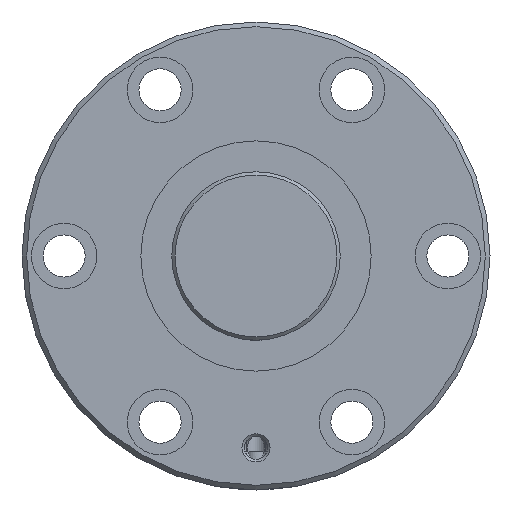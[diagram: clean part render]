
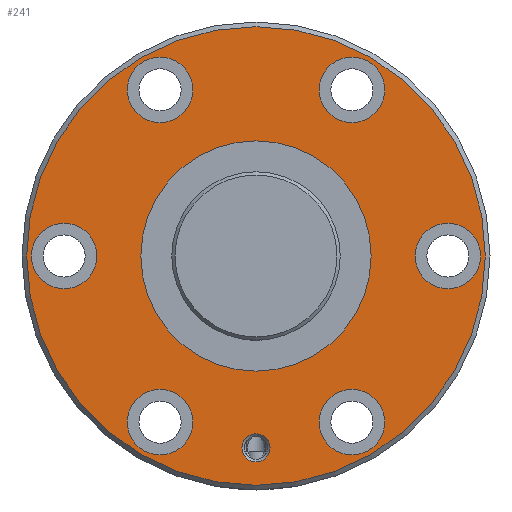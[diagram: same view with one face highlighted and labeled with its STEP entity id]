
A CAD part, left-side view. The second image highlights one B-rep face of the part: STEP entity #241.
In plain terms, the highlighted planar face has unit normal (-1, 0, 0).
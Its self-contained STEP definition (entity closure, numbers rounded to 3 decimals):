
#241 = ADVANCED_FACE( '', ( #464, #465, #466, #467, #468, #469, #470, #471, #472 ), #473, .T. );
#464 = FACE_BOUND( '', #763, .T. );
#465 = FACE_BOUND( '', #764, .T. );
#466 = FACE_BOUND( '', #765, .T. );
#467 = FACE_BOUND( '', #766, .T. );
#468 = FACE_BOUND( '', #767, .T. );
#469 = FACE_BOUND( '', #768, .T. );
#470 = FACE_BOUND( '', #769, .T. );
#471 = FACE_BOUND( '', #770, .T. );
#472 = FACE_OUTER_BOUND( '', #771, .T. );
#473 = PLANE( '', #772 );
#763 = EDGE_LOOP( '', ( #1364 ) );
#764 = EDGE_LOOP( '', ( #1365 ) );
#765 = EDGE_LOOP( '', ( #1366 ) );
#766 = EDGE_LOOP( '', ( #1367 ) );
#767 = EDGE_LOOP( '', ( #1368 ) );
#768 = EDGE_LOOP( '', ( #1369 ) );
#769 = EDGE_LOOP( '', ( #1370 ) );
#770 = EDGE_LOOP( '', ( #1371 ) );
#771 = EDGE_LOOP( '', ( #1372 ) );
#772 = AXIS2_PLACEMENT_3D( '', #1373, #1374, #1375 );
#1364 = ORIENTED_EDGE( '', *, *, #1721, .T. );
#1365 = ORIENTED_EDGE( '', *, *, #1722, .T. );
#1366 = ORIENTED_EDGE( '', *, *, #1593, .T. );
#1367 = ORIENTED_EDGE( '', *, *, #1723, .T. );
#1368 = ORIENTED_EDGE( '', *, *, #1724, .T. );
#1369 = ORIENTED_EDGE( '', *, *, #1725, .T. );
#1370 = ORIENTED_EDGE( '', *, *, #1726, .T. );
#1371 = ORIENTED_EDGE( '', *, *, #1727, .T. );
#1372 = ORIENTED_EDGE( '', *, *, #1728, .F. );
#1373 = CARTESIAN_POINT( '', ( 0., 49., 0. ) );
#1374 = DIRECTION( '', ( -1., 0., 0. ) );
#1375 = DIRECTION( '', ( 0., 0., 1. ) );
#1593 = EDGE_CURVE( '', #1803, #1803, #1804, .T. );
#1721 = EDGE_CURVE( '', #2019, #2019, #2020, .T. );
#1722 = EDGE_CURVE( '', #2021, #2021, #2022, .F. );
#1723 = EDGE_CURVE( '', #2023, #2023, #2024, .T. );
#1724 = EDGE_CURVE( '', #2025, #2025, #2026, .T. );
#1725 = EDGE_CURVE( '', #2027, #2027, #2028, .T. );
#1726 = EDGE_CURVE( '', #2029, #2029, #2030, .T. );
#1727 = EDGE_CURVE( '', #2031, #2031, #2032, .T. );
#1728 = EDGE_CURVE( '', #2033, #2033, #2034, .T. );
#1803 = VERTEX_POINT( '', #2248 );
#1804 = CIRCLE( '', #2249, 3. );
#2019 = VERTEX_POINT( '', #2832 );
#2020 = CIRCLE( '', #2833, 24.6 );
#2021 = VERTEX_POINT( '', #2834 );
#2022 = CIRCLE( '', #2835, 7. );
#2023 = VERTEX_POINT( '', #2836 );
#2024 = CIRCLE( '', #2837, 7. );
#2025 = VERTEX_POINT( '', #2838 );
#2026 = CIRCLE( '', #2839, 7. );
#2027 = VERTEX_POINT( '', #2840 );
#2028 = CIRCLE( '', #2841, 7. );
#2029 = VERTEX_POINT( '', #2842 );
#2030 = CIRCLE( '', #2843, 7. );
#2031 = VERTEX_POINT( '', #2844 );
#2032 = CIRCLE( '', #2845, 7. );
#2033 = VERTEX_POINT( '', #2846 );
#2034 = CIRCLE( '', #2847, 49. );
#2248 = CARTESIAN_POINT( '', ( 0., 0., -44. ) );
#2249 = AXIS2_PLACEMENT_3D( '', #2953, #2954, #2955 );
#2832 = CARTESIAN_POINT( '', ( 0., 0., -24.6 ) );
#2833 = AXIS2_PLACEMENT_3D( '', #3216, #3217, #3218 );
#2834 = CARTESIAN_POINT( '', ( 0., 41., 7. ) );
#2835 = AXIS2_PLACEMENT_3D( '', #3219, #3220, #3221 );
#2836 = CARTESIAN_POINT( '', ( 0., 20.5, 28.507 ) );
#2837 = AXIS2_PLACEMENT_3D( '', #3222, #3223, #3224 );
#2838 = CARTESIAN_POINT( '', ( 0., -20.5, -42.507 ) );
#2839 = AXIS2_PLACEMENT_3D( '', #3225, #3226, #3227 );
#2840 = CARTESIAN_POINT( '', ( 0., -20.5, 28.507 ) );
#2841 = AXIS2_PLACEMENT_3D( '', #3228, #3229, #3230 );
#2842 = CARTESIAN_POINT( '', ( 0., 20.5, -42.507 ) );
#2843 = AXIS2_PLACEMENT_3D( '', #3231, #3232, #3233 );
#2844 = CARTESIAN_POINT( '', ( 0., -41., -7. ) );
#2845 = AXIS2_PLACEMENT_3D( '', #3234, #3235, #3236 );
#2846 = CARTESIAN_POINT( '', ( 0., 0., -49. ) );
#2847 = AXIS2_PLACEMENT_3D( '', #3237, #3238, #3239 );
#2953 = CARTESIAN_POINT( '', ( 0., 0., -41. ) );
#2954 = DIRECTION( '', ( 1., 0., 0. ) );
#2955 = DIRECTION( '', ( 0., 0., -1. ) );
#3216 = CARTESIAN_POINT( '', ( 0., 0., 0. ) );
#3217 = DIRECTION( '', ( 1., 0., 0. ) );
#3218 = DIRECTION( '', ( 0., 0., -1. ) );
#3219 = CARTESIAN_POINT( '', ( 0., 41., 0. ) );
#3220 = DIRECTION( '', ( -1., 0., 0. ) );
#3221 = DIRECTION( '', ( 0., 0., 1. ) );
#3222 = CARTESIAN_POINT( '', ( 0., 20.5, 35.507 ) );
#3223 = DIRECTION( '', ( 1., 0., 0. ) );
#3224 = DIRECTION( '', ( 0., 0., -1. ) );
#3225 = CARTESIAN_POINT( '', ( 0., -20.5, -35.507 ) );
#3226 = DIRECTION( '', ( 1., 0., 0. ) );
#3227 = DIRECTION( '', ( 0., 0., -1. ) );
#3228 = CARTESIAN_POINT( '', ( 0., -20.5, 35.507 ) );
#3229 = DIRECTION( '', ( 1., 0., 0. ) );
#3230 = DIRECTION( '', ( 0., 0., -1. ) );
#3231 = CARTESIAN_POINT( '', ( 0., 20.5, -35.507 ) );
#3232 = DIRECTION( '', ( 1., 0., 0. ) );
#3233 = DIRECTION( '', ( 0., 0., -1. ) );
#3234 = CARTESIAN_POINT( '', ( 0., -41., 0. ) );
#3235 = DIRECTION( '', ( 1., 0., 0. ) );
#3236 = DIRECTION( '', ( 0., 0., -1. ) );
#3237 = CARTESIAN_POINT( '', ( 0., 0., 0. ) );
#3238 = DIRECTION( '', ( 1., 0., 0. ) );
#3239 = DIRECTION( '', ( 0., 0., -1. ) );
